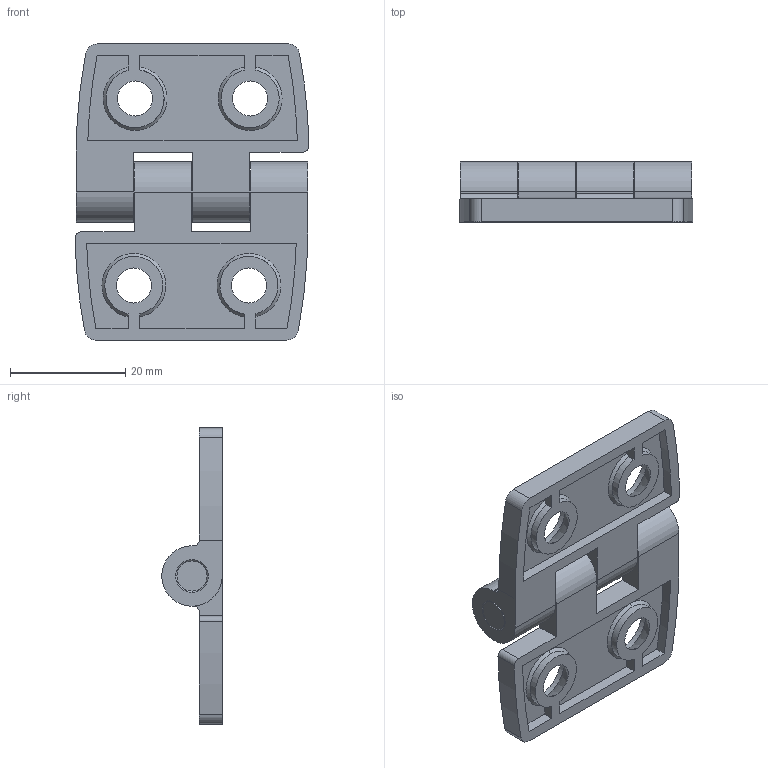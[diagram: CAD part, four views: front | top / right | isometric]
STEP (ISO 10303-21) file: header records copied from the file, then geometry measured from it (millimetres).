
FILE_DESCRIPTION (( 'STEP AP203' ), '1' );
FILE_NAME ('XG02-008-2.STEP', '2023-12-06T03:58:58', ( '' ), ( '' ), 'SwSTEP 2.0', 'SolidWorks 2020', '' );
FILE_SCHEMA (( 'CONFIG_CONTROL_DESIGN' ));
Length unit declared in the file: millimetre
Products named in the file (1): XG02-008-2
Bounding box: 40.67 x 10.5 x 51.5 mm (x, y, z)
Volume: 7579.4 mm3; surface area: 7053.1 mm2
Topology: 2 solids, 3 shells, 113 faces, 300 edges, 196 vertices
Faces by surface type: cylinder 56, plane 39, cone 18
Entity records: 3661 total; most frequent: DIRECTION 654, CARTESIAN_POINT 634, ORIENTED_EDGE 600, EDGE_CURVE 300, AXIS2_PLACEMENT_3D 248, VERTEX_POINT 196, VECTOR 158, LINE 158
